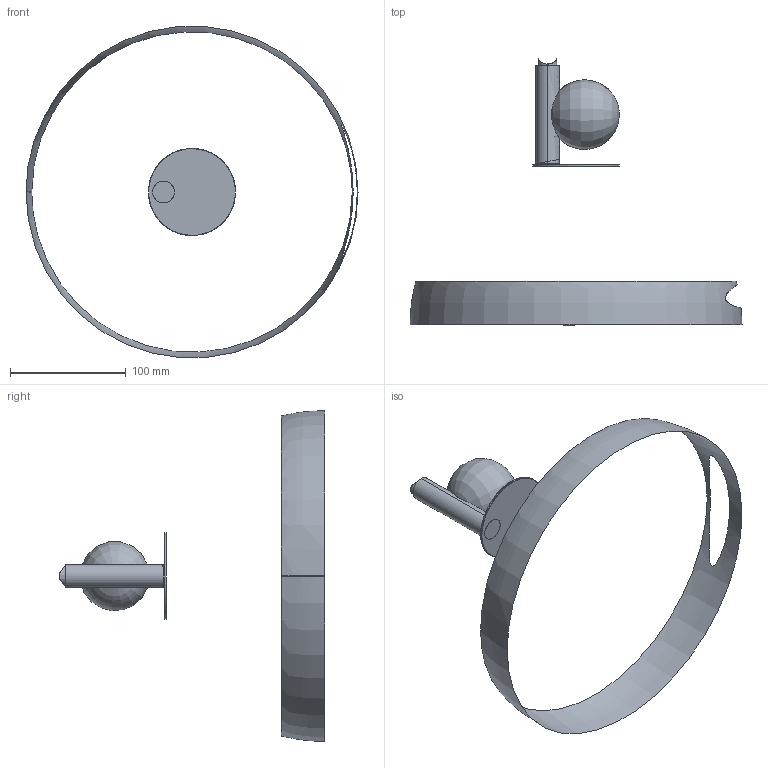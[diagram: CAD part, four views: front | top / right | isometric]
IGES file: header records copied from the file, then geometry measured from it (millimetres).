
Start section: SolidWorks IGES file using analytic representation for surfaces
Global section: file name: C:\Users\Joandita\Dropbox\Rakumba Marketing - Design\PRODUCT\TYPOGRAPHY\VELA\PRODUCT PHOTOGRAPHY\WORKING FILES\RENDERS\CAD\Lightweight\Lights\Amid.IGS; native system: SolidWorks 2017; preprocessor: SolidWorks 2017; author: Joandita; date: 210916.112940; units: millimetre
Bounding box: 286.25 x 229.1 x 285.45 mm (x, y, z)
Surface area: 66229.5 mm2 (no closed solid volume)
Topology: 0 solids, 0 shells, 38 faces, 822 edges, 821 vertices
Faces by surface type: revolution 25, bspline 13
